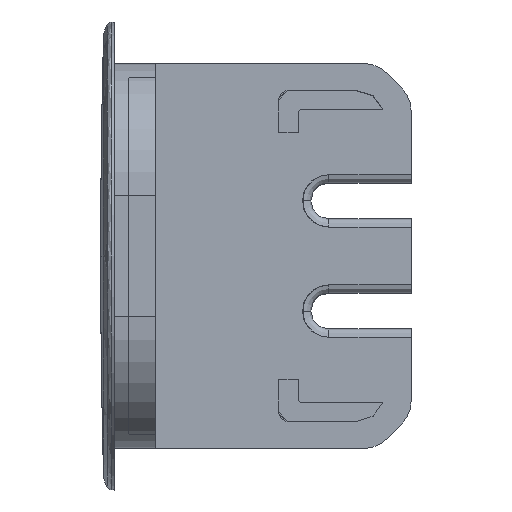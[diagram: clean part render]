
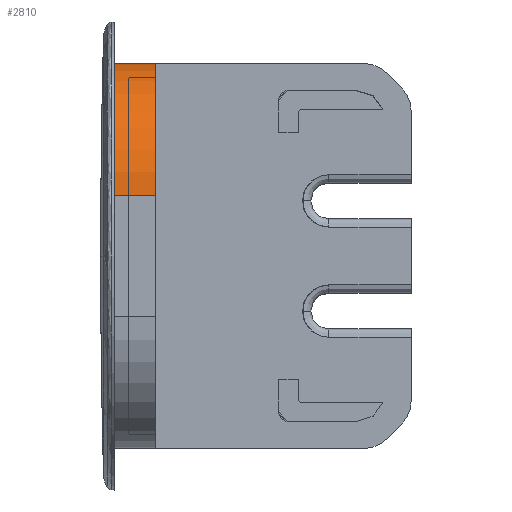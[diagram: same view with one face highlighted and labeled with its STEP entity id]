
A CAD part, left-side view. The second image highlights one B-rep face of the part: STEP entity #2810.
In plain terms, the highlighted cylindrical face has radius 4.8 mm (diameter 9.6 mm), a partial arc.
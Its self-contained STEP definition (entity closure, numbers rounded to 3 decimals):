
#47 = DIRECTION ( 'NONE',  ( 0., 0., 1. ) ) ;
#241 = VERTEX_POINT ( 'NONE', #2360 ) ;
#523 = LINE ( 'NONE', #2459, #3126 ) ;
#532 = EDGE_CURVE ( 'NONE', #2387, #3106, #1975, .T. ) ;
#730 = ORIENTED_EDGE ( 'NONE', *, *, #532, .T. ) ;
#749 = DIRECTION ( 'NONE',  ( 0., 0., 1. ) ) ;
#787 = VECTOR ( 'NONE', #47, 1000. ) ;
#801 = CARTESIAN_POINT ( 'NONE',  ( -2.2, 2., -1.5 ) ) ;
#945 = ORIENTED_EDGE ( 'NONE', *, *, #3083, .F. ) ;
#956 = VERTEX_POINT ( 'NONE', #3159 ) ;
#984 = DIRECTION ( 'NONE',  ( 0., 1., 0. ) ) ;
#1058 = CIRCLE ( 'NONE', #1068, 4.8 ) ;
#1068 = AXIS2_PLACEMENT_3D ( 'NONE', #2962, #749, #984 ) ;
#1145 = AXIS2_PLACEMENT_3D ( 'NONE', #801, #3024, #2043 ) ;
#1230 = CARTESIAN_POINT ( 'NONE',  ( -7., 2., 0. ) ) ;
#1328 = CARTESIAN_POINT ( 'NONE',  ( -2.2, 2., 0. ) ) ;
#1452 = CARTESIAN_POINT ( 'NONE',  ( -7., 2., -1.5 ) ) ;
#1508 = DIRECTION ( 'NONE',  ( 0., 0., -1. ) ) ;
#1845 = DIRECTION ( 'NONE',  ( 0., 1., 0. ) ) ;
#1975 = LINE ( 'NONE', #2954, #787 ) ;
#2043 = DIRECTION ( 'NONE',  ( 0., 1., 0. ) ) ;
#2085 = DIRECTION ( 'NONE',  ( 0., 0., -1. ) ) ;
#2145 = EDGE_CURVE ( 'NONE', #2387, #956, #2174, .T. ) ;
#2174 = CIRCLE ( 'NONE', #1145, 4.8 ) ;
#2268 = ORIENTED_EDGE ( 'NONE', *, *, #2145, .F. ) ;
#2360 = CARTESIAN_POINT ( 'NONE',  ( -2.2, 6.8, 0. ) ) ;
#2387 = VERTEX_POINT ( 'NONE', #1452 ) ;
#2459 = CARTESIAN_POINT ( 'NONE',  ( -2.2, 6.8, -0.75 ) ) ;
#2754 = EDGE_LOOP ( 'NONE', ( #945, #2910, #2268, #730 ) ) ;
#2769 = AXIS2_PLACEMENT_3D ( 'NONE', #1328, #2085, #1845 ) ;
#2810 = ADVANCED_FACE ( 'NONE', ( #2827 ), #2938, .T. ) ;
#2827 = FACE_OUTER_BOUND ( 'NONE', #2754, .T. ) ;
#2910 = ORIENTED_EDGE ( 'NONE', *, *, #3030, .T. ) ;
#2938 = CYLINDRICAL_SURFACE ( 'NONE', #2769, 4.8 ) ;
#2954 = CARTESIAN_POINT ( 'NONE',  ( -7., 2., -0.75 ) ) ;
#2962 = CARTESIAN_POINT ( 'NONE',  ( -2.2, 2., 0. ) ) ;
#3024 = DIRECTION ( 'NONE',  ( 0., 0., -1. ) ) ;
#3030 = EDGE_CURVE ( 'NONE', #241, #956, #523, .T. ) ;
#3083 = EDGE_CURVE ( 'NONE', #241, #3106, #1058, .T. ) ;
#3106 = VERTEX_POINT ( 'NONE', #1230 ) ;
#3126 = VECTOR ( 'NONE', #1508, 1000. ) ;
#3159 = CARTESIAN_POINT ( 'NONE',  ( -2.2, 6.8, -1.5 ) ) ;
